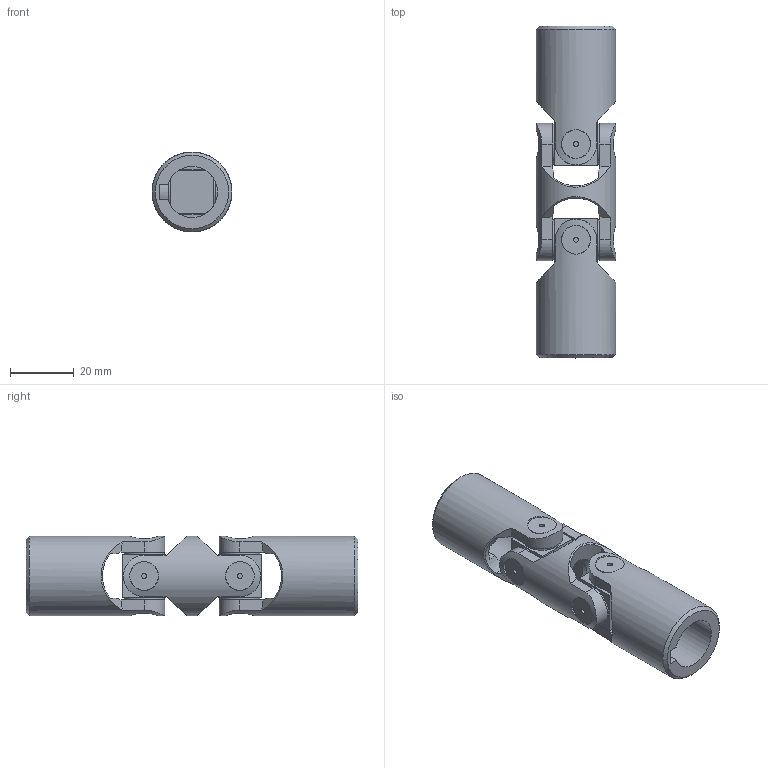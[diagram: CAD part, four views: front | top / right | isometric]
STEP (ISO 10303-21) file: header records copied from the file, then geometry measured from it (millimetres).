
FILE_DESCRIPTION(/* description */ (''),/* implementation_level */ '2;1');
FILE_NAME(/* name */ '\\SRV2016\Societa\Stefano\Disegni 3D\00Catalogo 3D\02Doppi GD-GBD\SGBD162C.stp',/* time_stamp */ '2021-11-22T17:10:37+01:00',/* author */ ('acquisti'),/* organization */ (''),/* preprocessor_version */ 'ST-DEVELOPER v15.6',/* originating_system */ 'Autodesk Inventor 2015',/* authorisation */ '');
FILE_SCHEMA (('AUTOMOTIVE_DESIGN { 1 0 10303 214 3 1 1 }'));
Length unit declared in the file: millimetre
Products named in the file (4): 04G MOD; 04G SFE; 1GB MOC; Ø25_1GBD-00_SGBD1600
Assembly tree (5 placements, depth 2):
  Ø25_1GBD-00_SGBD1600
    04G MOD
    04G SFE  x2
    1GB MOC  x2
Bounding box: 25 x 104 x 25 mm (x, y, z)
Volume: 29696.5 mm3; surface area: 16187.2 mm2
Topology: 5 solids, 5 shells, 169 faces, 407 edges, 266 vertices
Faces by surface type: plane 80, cylinder 63, cone 20, torus 6
Full cylindrical faces by diameter (mm): 1.5 x8, 12.5 x8, 13 x2, 25 x3
Entity records: 3946 total; most frequent: CARTESIAN_POINT 1352, ORIENTED_EDGE 522, DIRECTION 495, EDGE_CURVE 261, AXIS2_PLACEMENT_3D 217, VERTEX_POINT 183, EDGE_LOOP 152, FACE_OUTER_BOUND 116
